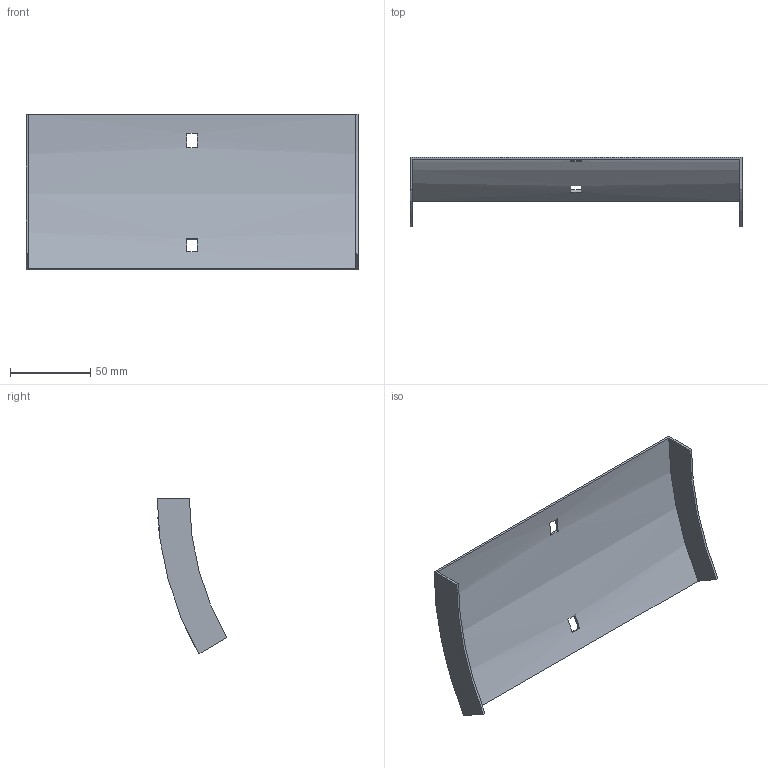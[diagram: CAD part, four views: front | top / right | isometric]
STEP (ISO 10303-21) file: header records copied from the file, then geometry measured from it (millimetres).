
FILE_DESCRIPTION (( 'STEP AP214' ), '1' );
FILE_NAME ('35N1I200.step', '2025-02-21T09:13:30', ( '' ), ( '' ), 'SwSTEP 2.0', 'SolidWorks 2023', '' );
FILE_SCHEMA (( 'AUTOMOTIVE_DESIGN' ));
Length unit declared in the file: millimetre
Products named in the file (1): 35N1I200
Bounding box: 207 x 43.31 x 97 mm (x, y, z)
Volume: 36567.1 mm3; surface area: 49856 mm2
Topology: 1 solids, 1 shells, 18 faces, 48 edges, 32 vertices
Faces by surface type: plane 14, cylinder 4
Entity records: 599 total; most frequent: DIRECTION 102, CARTESIAN_POINT 99, ORIENTED_EDGE 96, EDGE_CURVE 48, AXIS2_PLACEMENT_3D 35, VECTOR 32, VERTEX_POINT 32, LINE 32
